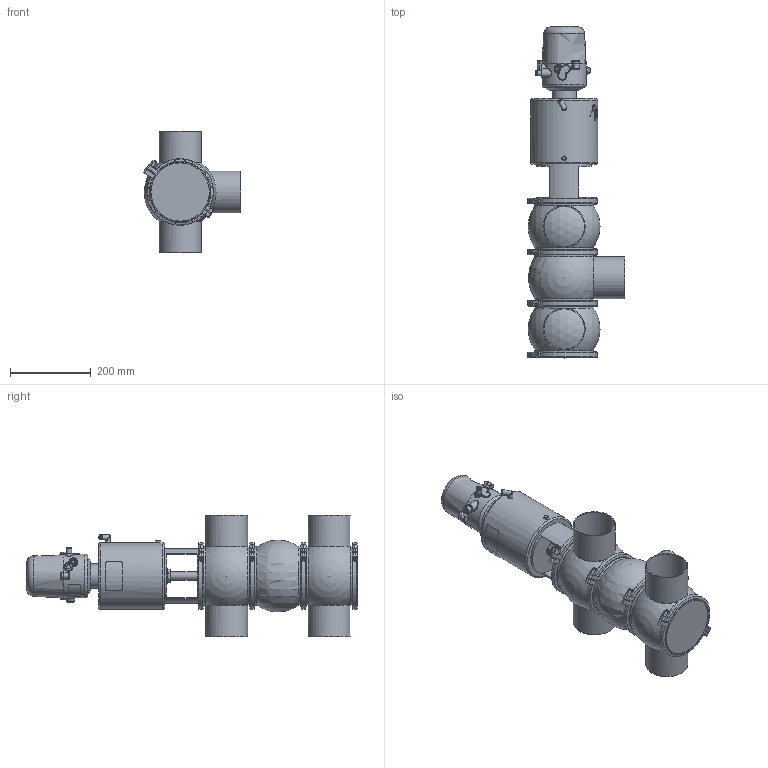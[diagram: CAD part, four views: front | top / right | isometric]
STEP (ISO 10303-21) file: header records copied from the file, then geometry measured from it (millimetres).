
FILE_DESCRIPTION (( 'STEP AP214' ), '1' );
FILE_NAME ('INNOVA L W W DIN 100 T4 AS NC & C-TOP S_10.241.16.0064.STEP', '2024-08-06T12:21:32', ( '' ), ( '' ), 'SwSTEP 2.0', 'SolidWorks 2023', '' );
FILE_SCHEMA (( 'AUTOMOTIVE_DESIGN' ));
Length unit declared in the file: millimetre
Products named in the file (9): 10.241.15.0001_DIN 100; 10.240.15.0014_T4 AS P180; 10.240.15.0017_Estàndard; 10.240.15.0001_DN 100; 10.426.15.0001_C-TOP S - 1 EV; INNOVA L W W DIN 100 T4 AS NC & C-TOP S_10.241.16.0064; 10.240.15.0007_DIN 100; 10.240.15.0010_DN 100; 10.240.15.0006_DIN 100
Assembly tree (12 placements, depth 2):
  INNOVA L W W DIN 100 T4 AS NC & C-TOP S_10.241.16.0064
    10.240.15.0007_DIN 100  x2
    10.240.15.0006_DIN 100
    10.240.15.0010_DN 100
    10.240.15.0014_T4 AS P180
    10.240.15.0017_Estàndard
    10.426.15.0001_C-TOP S - 1 EV
    10.240.15.0001_DN 100  x4
    10.241.15.0001_DIN 100
Bounding box: 241.26 x 822.5 x 300 mm (x, y, z)
Volume: 13890381.8 mm3; surface area: 1050416.9 mm2
Topology: 13 solids, 13 shells, 1317 faces, 3233 edges, 2144 vertices
Faces by surface type: plane 479, cylinder 407, cone 221, bspline 160, torus 36, sphere 14
Full cylindrical faces by diameter (mm): 0.371 x17, 0.512 x16, 0.658 x16, 0.795 x16, 0.94 x15, 1.098 x15, 1.241 x13, 1.382 x13, 1.523 x11, 1.669 x10, 2.201 x1, 4 x2, 5.5 x2, 6 x2, 6.15 x1, 8 x10, 8.5 x1, 10 x1, 10.5 x1, 11 x2, 12.5 x3, 13 x2, 13.5 x2, 16 x1, 17 x3, 20 x3, 20.5 x1, 22 x2, 31 x1, 34.5 x3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
Entity records: 58220 total; most frequent: CARTESIAN_POINT 27813, ORIENTED_EDGE 4538, DIRECTION 3689, EDGE_CURVE 2269, VERTEX_POINT 1614, EDGE_LOOP 1575, AXIS2_PLACEMENT_3D 1516, FACE_OUTER_BOUND 1338
